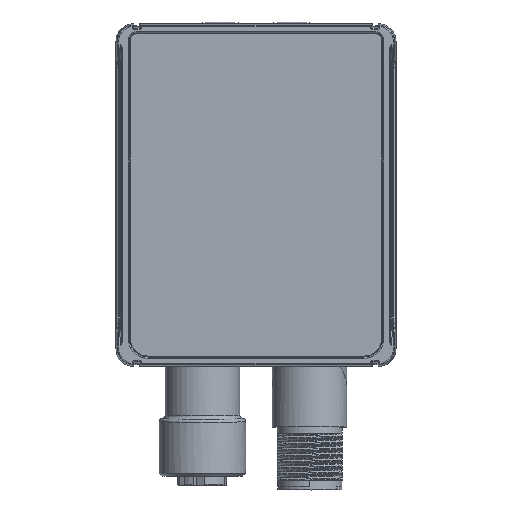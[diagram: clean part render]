
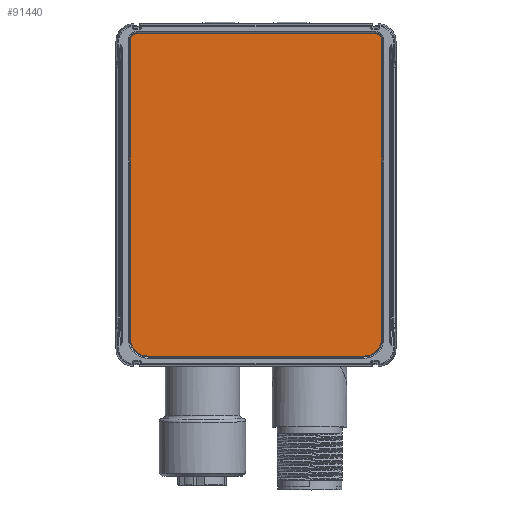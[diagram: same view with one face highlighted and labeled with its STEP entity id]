
A CAD part, top view. The second image highlights one B-rep face of the part: STEP entity #91440.
In plain terms, the highlighted planar face has unit normal (0, 0, 1).
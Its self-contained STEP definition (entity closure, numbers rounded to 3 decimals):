
#28926=CARTESIAN_POINT('',(-20.1,26.05,37.55));
#28927=DIRECTION('',(0.,0.,-1.));
#28928=DIRECTION('',(-1.,0.,0.));
#28929=AXIS2_PLACEMENT_3D('',#28926,#28927,#28928);
#28931=DIRECTION('',(1.,0.,0.));
#28932=VECTOR('',#28931,40.2);
#28933=CARTESIAN_POINT('',(-20.1,27.05,37.55));
#28934=LINE('',#28933,#28932);
#28935=CARTESIAN_POINT('',(20.1,26.05,37.55));
#28936=DIRECTION('',(0.,0.,-1.));
#28937=DIRECTION('',(0.,1.,0.));
#28938=AXIS2_PLACEMENT_3D('',#28935,#28936,#28937);
#28940=DIRECTION('',(0.,-1.,0.));
#28941=VECTOR('',#28940,50.1);
#28942=CARTESIAN_POINT('',(21.1,26.05,37.55));
#28943=LINE('',#28942,#28941);
#28944=CARTESIAN_POINT('',(18.1,-24.05,37.55));
#28945=DIRECTION('',(0.,0.,-1.));
#28946=DIRECTION('',(1.,0.,0.));
#28947=AXIS2_PLACEMENT_3D('',#28944,#28945,#28946);
#28949=DIRECTION('',(-1.,0.,0.));
#28950=VECTOR('',#28949,36.2);
#28951=CARTESIAN_POINT('',(18.1,-27.05,37.55));
#28952=LINE('',#28951,#28950);
#28953=CARTESIAN_POINT('',(-18.1,-24.05,37.55));
#28954=DIRECTION('',(0.,0.,-1.));
#28955=DIRECTION('',(0.,-1.,0.));
#28956=AXIS2_PLACEMENT_3D('',#28953,#28954,#28955);
#28958=DIRECTION('',(0.,1.,0.));
#28959=VECTOR('',#28958,50.1);
#28960=CARTESIAN_POINT('',(-21.1,-24.05,37.55));
#28961=LINE('',#28960,#28959);
#32524=CARTESIAN_POINT('',(-20.1,27.05,37.55));
#32525=VERTEX_POINT('',#32524);
#32526=CARTESIAN_POINT('',(-21.1,26.05,37.55));
#32527=VERTEX_POINT('',#32526);
#32528=CARTESIAN_POINT('',(20.1,27.05,37.55));
#32529=VERTEX_POINT('',#32528);
#32530=CARTESIAN_POINT('',(21.1,26.05,37.55));
#32531=VERTEX_POINT('',#32530);
#32532=CARTESIAN_POINT('',(21.1,-24.05,37.55));
#32533=VERTEX_POINT('',#32532);
#32534=CARTESIAN_POINT('',(18.1,-27.05,37.55));
#32535=VERTEX_POINT('',#32534);
#32536=CARTESIAN_POINT('',(-18.1,-27.05,37.55));
#32537=VERTEX_POINT('',#32536);
#32538=CARTESIAN_POINT('',(-21.1,-24.05,37.55));
#32539=VERTEX_POINT('',#32538);
#91425=CARTESIAN_POINT('',(0.,0.,37.55));
#91426=DIRECTION('',(0.,0.,1.));
#91427=DIRECTION('',(1.,0.,0.));
#91428=AXIS2_PLACEMENT_3D('',#91425,#91426,#91427);
#91429=PLANE('',#91428);
#91430=ORIENTED_EDGE('',*,*,#91321,.T.);
#91431=ORIENTED_EDGE('',*,*,#91336,.T.);
#91432=ORIENTED_EDGE('',*,*,#91350,.T.);
#91433=ORIENTED_EDGE('',*,*,#91364,.T.);
#91434=ORIENTED_EDGE('',*,*,#91378,.T.);
#91435=ORIENTED_EDGE('',*,*,#91392,.T.);
#91436=ORIENTED_EDGE('',*,*,#91406,.T.);
#91437=ORIENTED_EDGE('',*,*,#91419,.T.);
#91438=EDGE_LOOP('',(#91430,#91431,#91432,#91433,#91434,#91435,#91436,#91437));
#91439=FACE_OUTER_BOUND('',#91438,.F.);
#91440=ADVANCED_FACE('',(#91439),#91429,.T.);
#28930=CIRCLE('',#28929,1.);
#28939=CIRCLE('',#28938,1.);
#28948=CIRCLE('',#28947,3.);
#28957=CIRCLE('',#28956,3.);
#91321=EDGE_CURVE('',#32527,#32525,#28930,.T.);
#91336=EDGE_CURVE('',#32525,#32529,#28934,.T.);
#91350=EDGE_CURVE('',#32529,#32531,#28939,.T.);
#91364=EDGE_CURVE('',#32531,#32533,#28943,.T.);
#91378=EDGE_CURVE('',#32533,#32535,#28948,.T.);
#91392=EDGE_CURVE('',#32535,#32537,#28952,.T.);
#91406=EDGE_CURVE('',#32537,#32539,#28957,.T.);
#91419=EDGE_CURVE('',#32539,#32527,#28961,.T.);
